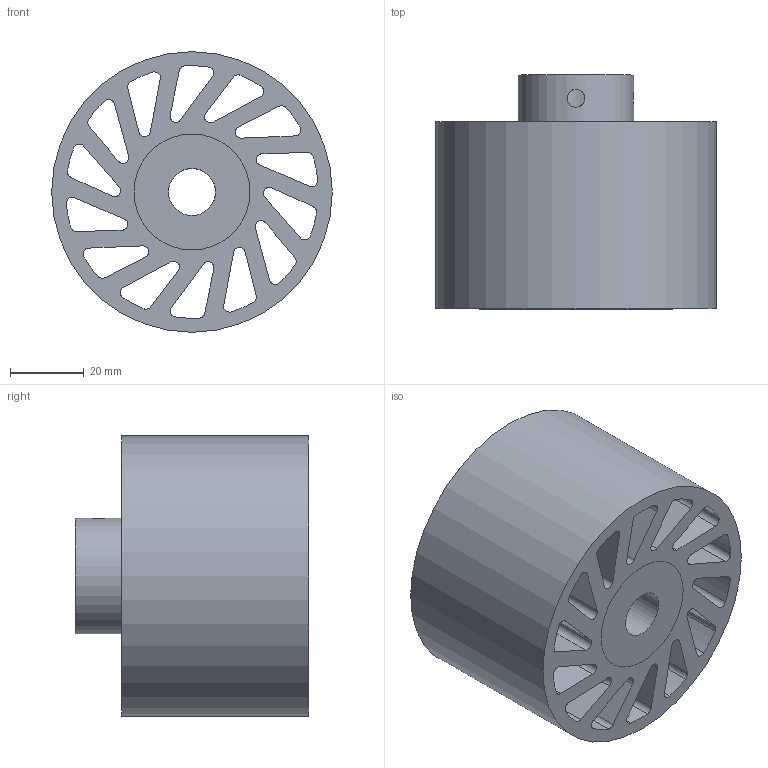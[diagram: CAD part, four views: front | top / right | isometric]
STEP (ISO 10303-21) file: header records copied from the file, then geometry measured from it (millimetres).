
FILE_DESCRIPTION(/* description */ (''),/* implementation_level */ '2;1');
FILE_NAME(/* name */ 'NCW-710-DUR-CLR.stp',/* time_stamp */ '2023-02-01T16:40:39-06:00',/* author */ ('AG'),/* organization */ ('Meridian Laboratory'),/* preprocessor_version */ 'ST-DEVELOPER v18.1',/* originating_system */ 'Autodesk Inventor 2022',/* authorisation */ '');
FILE_SCHEMA (('AUTOMOTIVE_DESIGN { 1 0 10303 214 3 1 1 }'));
Length unit declared in the file: inch
Products named in the file (1): NCW-640-DUR-CLR
Bounding box: 76.2 x 63.5 x 76.2 mm (x, y, z)
Volume: 162468.3 mm3; surface area: 63059.5 mm2
Topology: 2 solids, 2 shells, 94 faces, 274 edges, 184 vertices
Faces by surface type: cylinder 62, plane 32
Full cylindrical faces by diameter (mm): 4.826 x2, 12.725 x1, 31.496 x2, 76.2 x1
Entity records: 3512 total; most frequent: CARTESIAN_POINT 689, DIRECTION 576, ORIENTED_EDGE 548, EDGE_CURVE 274, AXIS2_PLACEMENT_3D 215, VERTEX_POINT 184, LINE 146, VECTOR 146
